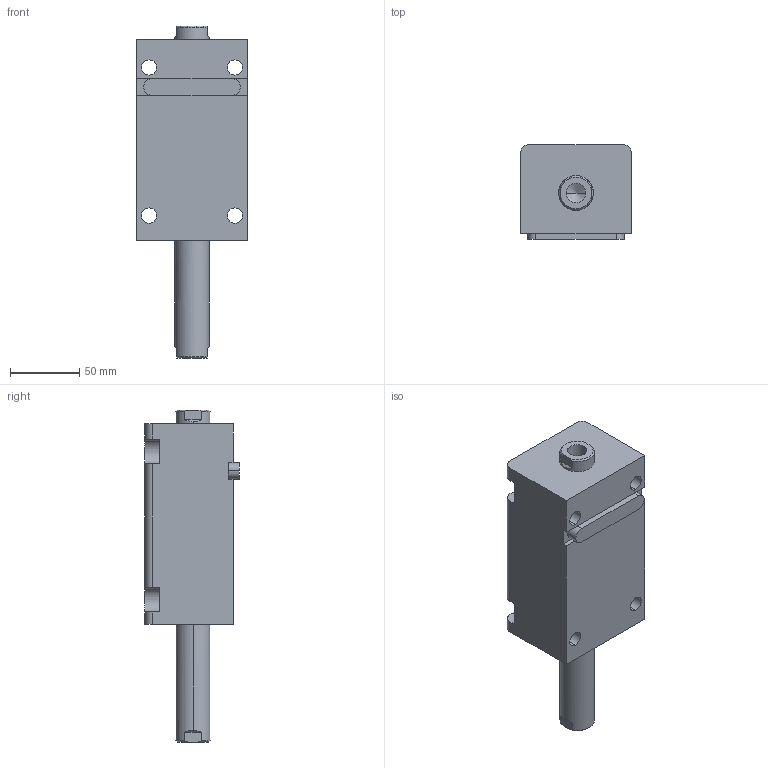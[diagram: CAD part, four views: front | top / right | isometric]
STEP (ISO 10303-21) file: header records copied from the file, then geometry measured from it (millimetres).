
FILE_DESCRIPTION (( 'STEP AP203' ), '1' );
FILE_NAME ('HTB-LW40-75N.STEP', '2019-10-09T07:58:03', ( '微软用户' ), ( '微软中国' ), 'SwSTEP 2.0', 'SolidWorks 2012', '' );
FILE_SCHEMA (( 'CONFIG_CONTROL_DESIGN' ));
Length unit declared in the file: millimetre
Products named in the file (4): HTB-LW40-75N; HTB-LA40-瑩; HTB-LW40-75N活塞杆; HTB-LW40-75掛极
Assembly tree (3 placements, depth 2):
  HTB-LW40-75N
    HTB-LW40-75掛极
    HTB-LW40-75N活塞杆
    HTB-LA40-瑩
Bounding box: 80 x 68.5 x 240 mm (x, y, z)
Volume: 690328.8 mm3; surface area: 103417.5 mm2
Topology: 3 solids, 3 shells, 105 faces, 261 edges, 168 vertices
Faces by surface type: plane 44, cylinder 41, cone 12, torus 8
Entity records: 3567 total; most frequent: CARTESIAN_POINT 588, DIRECTION 573, ORIENTED_EDGE 514, EDGE_CURVE 257, AXIS2_PLACEMENT_3D 221, VERTEX_POINT 168, LINE 131, VECTOR 131
